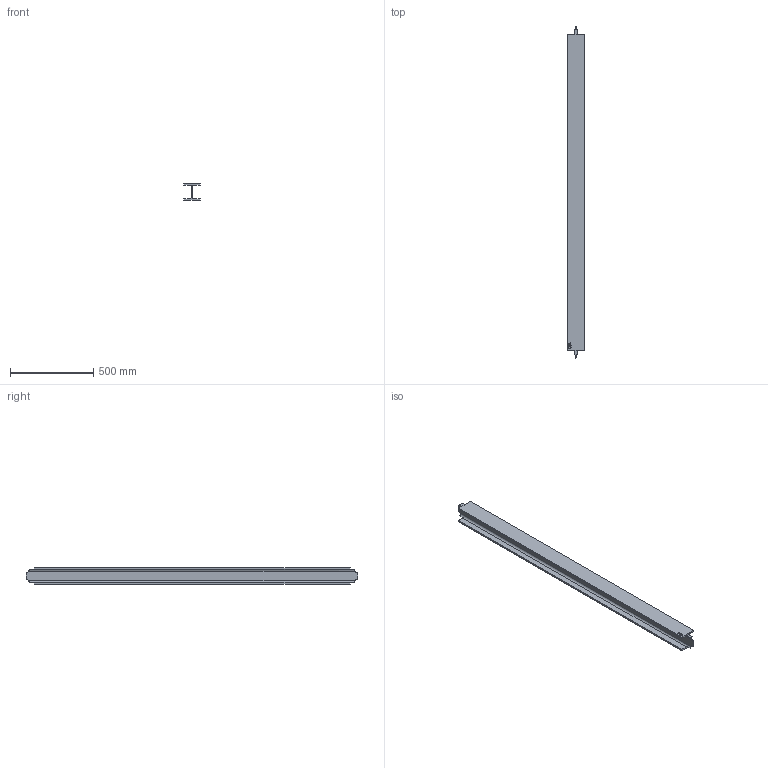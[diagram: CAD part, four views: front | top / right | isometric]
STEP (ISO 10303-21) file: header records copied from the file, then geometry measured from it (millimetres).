
FILE_DESCRIPTION (( 'STEP AP214' ), '1' );
FILE_NAME ('CCJ029-REP.004 - POUTRE A1-B1.STEP', '2025-02-13T07:33:33', ( '' ), ( '' ), 'SwSTEP 2.0', 'SolidWorks 2021', '' );
FILE_SCHEMA (( 'AUTOMOTIVE_DESIGN' ));
Length unit declared in the file: millimetre
Products named in the file (1): CCJ029-REP.004 - POUTRE A1-B1
Bounding box: 100 x 1988.5 x 100 mm (x, y, z)
Volume: 4966124 mm3; surface area: 1094140 mm2
Topology: 1 solids, 1 shells, 67 faces, 177 edges, 118 vertices
Faces by surface type: plane 41, bspline 18, cylinder 8
Entity records: 3677 total; most frequent: CARTESIAN_POINT 2101, ORIENTED_EDGE 354, DIRECTION 249, EDGE_CURVE 177, VERTEX_POINT 118, LINE 117, VECTOR 117, EDGE_LOOP 73
